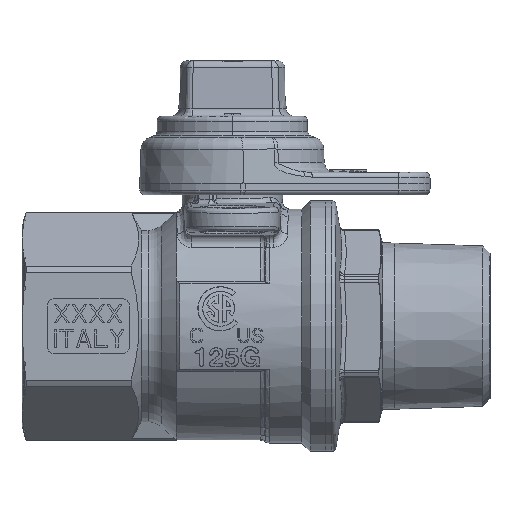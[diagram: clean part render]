
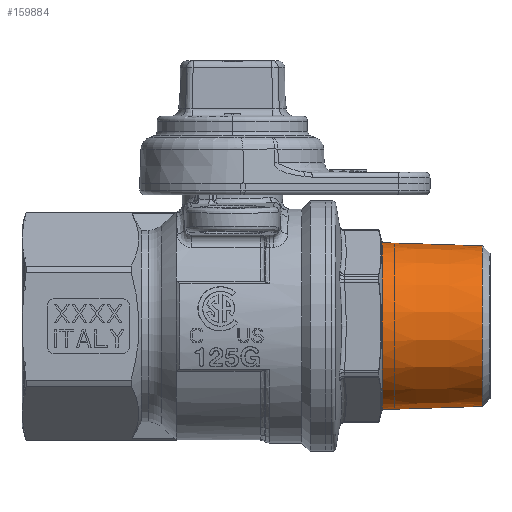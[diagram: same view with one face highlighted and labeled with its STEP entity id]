
A CAD part, front view. The second image highlights one B-rep face of the part: STEP entity #159884.
In plain terms, the highlighted conical face has half-angle 1.783 degrees and reference radius 16.333 mm.
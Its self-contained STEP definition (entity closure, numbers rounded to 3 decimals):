
#159707 = CONICAL_SURFACE('',#159708,15.272,0.785);
#159708 = AXIS2_PLACEMENT_3D('',#159709,#159710,#159711);
#159709 = CARTESIAN_POINT('',(92.65,25.,-39.5));
#159710 = DIRECTION('',(-1.,0.,0.));
#159711 = DIRECTION('',(0.,0.,1.));
#159779 = VERTEX_POINT('',#159780);
#159780 = CARTESIAN_POINT('',(91.9,25.,-55.522));
#159781 = VERTEX_POINT('',#159782);
#159782 = CARTESIAN_POINT('',(91.9,25.,-23.478));
#159797 = CONICAL_SURFACE('',#159798,16.333,0.031);
#159798 = AXIS2_PLACEMENT_3D('',#159799,#159800,#159801);
#159799 = CARTESIAN_POINT('',(81.9,25.,-39.5));
#159800 = DIRECTION('',(-1.,0.,0.));
#159801 = DIRECTION('',(0.,0.,1.));
#159857 = EDGE_CURVE('',#159779,#159781,#159858,.T.);
#159858 = SURFACE_CURVE('',#159859,(#159864,#159871),.PCURVE_S1.);
#159859 = CIRCLE('',#159860,16.022);
#159860 = AXIS2_PLACEMENT_3D('',#159861,#159862,#159863);
#159861 = CARTESIAN_POINT('',(91.9,25.,-39.5));
#159862 = DIRECTION('',(-1.,0.,0.));
#159863 = DIRECTION('',(0.,0.,-1.));
#159864 = PCURVE('',#159707,#159865);
#159865 = DEFINITIONAL_REPRESENTATION('',(#159866),#159870);
#159866 = LINE('',#159867,#159868);
#159867 = CARTESIAN_POINT('',(3.142,0.75));
#159868 = VECTOR('',#159869,1.);
#159869 = DIRECTION('',(1.,0.));
#159870 = ( GEOMETRIC_REPRESENTATION_CONTEXT(2) 
PARAMETRIC_REPRESENTATION_CONTEXT() REPRESENTATION_CONTEXT('2D SPACE',''
  ) );
#159871 = PCURVE('',#159872,#159877);
#159872 = CONICAL_SURFACE('',#159873,16.333,0.031);
#159873 = AXIS2_PLACEMENT_3D('',#159874,#159875,#159876);
#159874 = CARTESIAN_POINT('',(81.9,25.,-39.5));
#159875 = DIRECTION('',(-1.,0.,0.));
#159876 = DIRECTION('',(0.,0.,1.));
#159877 = DEFINITIONAL_REPRESENTATION('',(#159878),#159882);
#159878 = LINE('',#159879,#159880);
#159879 = CARTESIAN_POINT('',(3.142,-10.));
#159880 = VECTOR('',#159881,1.);
#159881 = DIRECTION('',(1.,0.));
#159882 = ( GEOMETRIC_REPRESENTATION_CONTEXT(2) 
PARAMETRIC_REPRESENTATION_CONTEXT() REPRESENTATION_CONTEXT('2D SPACE',''
  ) );
#159884 = ADVANCED_FACE('',(#159885),#159872,.T.);
#159885 = FACE_BOUND('',#159886,.T.);
#159886 = EDGE_LOOP('',(#159887,#159888,#159911,#159940));
#159887 = ORIENTED_EDGE('',*,*,#159857,.T.);
#159888 = ORIENTED_EDGE('',*,*,#159889,.T.);
#159889 = EDGE_CURVE('',#159781,#159890,#159892,.T.);
#159890 = VERTEX_POINT('',#159891);
#159891 = CARTESIAN_POINT('',(71.9,25.,-22.856));
#159892 = SURFACE_CURVE('',#159893,(#159897,#159904),.PCURVE_S1.);
#159893 = LINE('',#159894,#159895);
#159894 = CARTESIAN_POINT('',(91.9,25.,-23.478));
#159895 = VECTOR('',#159896,1.);
#159896 = DIRECTION('',(-1.,0.,0.031));
#159897 = PCURVE('',#159872,#159898);
#159898 = DEFINITIONAL_REPRESENTATION('',(#159899),#159903);
#159899 = LINE('',#159900,#159901);
#159900 = CARTESIAN_POINT('',(6.283,-10.));
#159901 = VECTOR('',#159902,1.);
#159902 = DIRECTION('',(0.,1.));
#159903 = ( GEOMETRIC_REPRESENTATION_CONTEXT(2) 
PARAMETRIC_REPRESENTATION_CONTEXT() REPRESENTATION_CONTEXT('2D SPACE',''
  ) );
#159904 = PCURVE('',#159797,#159905);
#159905 = DEFINITIONAL_REPRESENTATION('',(#159906),#159910);
#159906 = LINE('',#159907,#159908);
#159907 = CARTESIAN_POINT('',(0.,-10.));
#159908 = VECTOR('',#159909,1.);
#159909 = DIRECTION('',(0.,1.));
#159910 = ( GEOMETRIC_REPRESENTATION_CONTEXT(2) 
PARAMETRIC_REPRESENTATION_CONTEXT() REPRESENTATION_CONTEXT('2D SPACE',''
  ) );
#159911 = ORIENTED_EDGE('',*,*,#159912,.F.);
#159912 = EDGE_CURVE('',#159913,#159890,#159915,.T.);
#159913 = VERTEX_POINT('',#159914);
#159914 = CARTESIAN_POINT('',(71.9,25.,-56.144));
#159915 = SURFACE_CURVE('',#159916,(#159921,#159928),.PCURVE_S1.);
#159916 = CIRCLE('',#159917,16.644);
#159917 = AXIS2_PLACEMENT_3D('',#159918,#159919,#159920);
#159918 = CARTESIAN_POINT('',(71.9,25.,-39.5));
#159919 = DIRECTION('',(-1.,0.,0.));
#159920 = DIRECTION('',(0.,0.,-1.));
#159921 = PCURVE('',#159872,#159922);
#159922 = DEFINITIONAL_REPRESENTATION('',(#159923),#159927);
#159923 = LINE('',#159924,#159925);
#159924 = CARTESIAN_POINT('',(3.142,10.));
#159925 = VECTOR('',#159926,1.);
#159926 = DIRECTION('',(1.,0.));
#159927 = ( GEOMETRIC_REPRESENTATION_CONTEXT(2) 
PARAMETRIC_REPRESENTATION_CONTEXT() REPRESENTATION_CONTEXT('2D SPACE',''
  ) );
#159928 = PCURVE('',#159929,#159934);
#159929 = CONICAL_SURFACE('',#159930,17.947,1.309);
#159930 = AXIS2_PLACEMENT_3D('',#159931,#159932,#159933);
#159931 = CARTESIAN_POINT('',(71.551,25.,-39.5));
#159932 = DIRECTION('',(-1.,0.,0.));
#159933 = DIRECTION('',(0.,0.,1.));
#159934 = DEFINITIONAL_REPRESENTATION('',(#159935),#159939);
#159935 = LINE('',#159936,#159937);
#159936 = CARTESIAN_POINT('',(3.142,-0.349));
#159937 = VECTOR('',#159938,1.);
#159938 = DIRECTION('',(1.,0.));
#159939 = ( GEOMETRIC_REPRESENTATION_CONTEXT(2) 
PARAMETRIC_REPRESENTATION_CONTEXT() REPRESENTATION_CONTEXT('2D SPACE',''
  ) );
#159940 = ORIENTED_EDGE('',*,*,#159941,.F.);
#159941 = EDGE_CURVE('',#159779,#159913,#159942,.T.);
#159942 = SURFACE_CURVE('',#159943,(#159947,#159954),.PCURVE_S1.);
#159943 = LINE('',#159944,#159945);
#159944 = CARTESIAN_POINT('',(91.9,25.,-55.522));
#159945 = VECTOR('',#159946,1.);
#159946 = DIRECTION('',(-1.,0.,-0.031));
#159947 = PCURVE('',#159872,#159948);
#159948 = DEFINITIONAL_REPRESENTATION('',(#159949),#159953);
#159949 = LINE('',#159950,#159951);
#159950 = CARTESIAN_POINT('',(3.142,-10.));
#159951 = VECTOR('',#159952,1.);
#159952 = DIRECTION('',(0.,1.));
#159953 = ( GEOMETRIC_REPRESENTATION_CONTEXT(2) 
PARAMETRIC_REPRESENTATION_CONTEXT() REPRESENTATION_CONTEXT('2D SPACE',''
  ) );
#159954 = PCURVE('',#159797,#159955);
#159955 = DEFINITIONAL_REPRESENTATION('',(#159956),#159960);
#159956 = LINE('',#159957,#159958);
#159957 = CARTESIAN_POINT('',(3.142,-10.));
#159958 = VECTOR('',#159959,1.);
#159959 = DIRECTION('',(0.,1.));
#159960 = ( GEOMETRIC_REPRESENTATION_CONTEXT(2) 
PARAMETRIC_REPRESENTATION_CONTEXT() REPRESENTATION_CONTEXT('2D SPACE',''
  ) );
